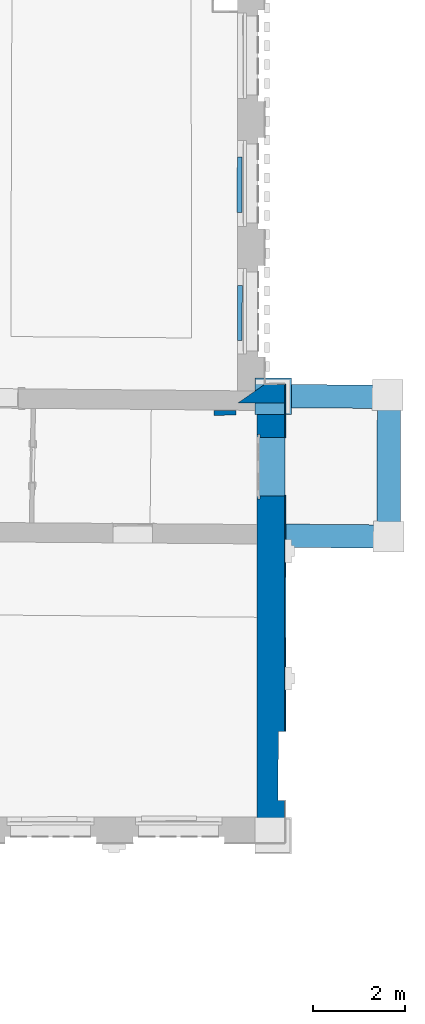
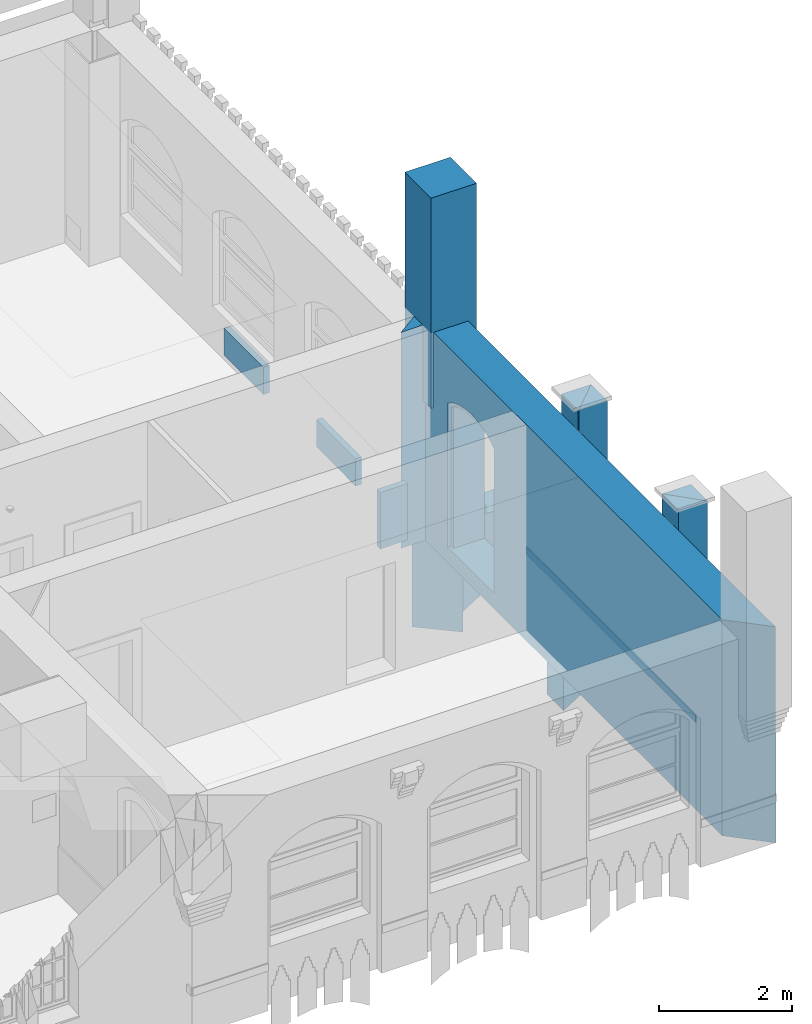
# One storey, part 36 of 90: 11 walls, 8 openings.
"""IFC2X3 building model written with IfcOpenShell, lengths in metres."""

from ifc_helpers import new_model, entity, si_unit, converted_unit, derived_unit, money_unit, direction, frame, origin_with_axes, origin_2d_with_axis, place, context, subcontext, project, spatial, polyline, rectangle, outline, extrude, faceted_brep, material, layer, layer_set, layer_usage, type_object, element, save


model = new_model("IFC2X3")

# Units and contexts
model_context = context("Model", 3, precision=1e-05, world=origin_with_axes(), true_north=direction((0.0, 1.0)))
body_context = subcontext(model_context, "Body", "Model", "MODEL_VIEW")
ifc_project = project(units=[si_unit("LENGTHUNIT", "METRE"), si_unit("AREAUNIT", "SQUARE_METRE"), si_unit("VOLUMEUNIT", "CUBIC_METRE"), converted_unit("PLANEANGLEUNIT", "DEGREE", entity("IfcPlaneAngleMeasure", 0.0174532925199), si_unit("PLANEANGLEUNIT", "RADIAN"), dimensions=[0, 0, 0, 0, 0, 0, 0]), money_unit("EUR"), converted_unit("TIMEUNIT", "Year", entity("IfcTimeMeasure", 31556926.0), si_unit("TIMEUNIT", "SECOND"), dimensions=[0, 0, 1, 0, 0, 0, 0]), si_unit("MASSUNIT", "GRAM", prefix="KILO"), si_unit("THERMODYNAMICTEMPERATUREUNIT", "DEGREE_CELSIUS"), si_unit("LUMINOUSINTENSITYUNIT", "LUMEN"), si_unit("ENERGYUNIT", "JOULE", prefix="MEGA"), derived_unit("THERMALCONDUCTANCEUNIT", [(si_unit("POWERUNIT", "WATT"), 1), (si_unit("LENGTHUNIT", "METRE"), -1), (si_unit("THERMODYNAMICTEMPERATUREUNIT", "KELVIN"), -1)]), derived_unit("SPECIFICHEATCAPACITYUNIT", [(si_unit("ENERGYUNIT", "JOULE"), 1), (si_unit("MASSUNIT", "GRAM", prefix="KILO"), -1), (si_unit("THERMODYNAMICTEMPERATUREUNIT", "KELVIN"), -1)]), derived_unit("MASSDENSITYUNIT", [(si_unit("MASSUNIT", "GRAM", prefix="KILO"), 1), (si_unit("VOLUMEUNIT", "CUBIC_METRE"), -1)])], contexts=[model_context])

# Site, building, storey
site_placement = place(None, origin_with_axes())
site = spatial("IfcSite", under=ifc_project, at=site_placement, Name="Gelände", CompositionType="ELEMENT")
building_placement = place(site_placement, origin_with_axes())
building = spatial("IfcBuilding", under=site, at=building_placement, Name="Gebäude", CompositionType="ELEMENT")
storey_placement = place(building_placement, frame((0.0, 0.0, 3.7), z_axis=(0.0, 0.0, 1.0), x_axis=(1.0, 0.0, 0.0)))
storey = spatial("IfcBuildingStorey", under=building, at=storey_placement, Name="1.OBERGESCHOSS", CompositionType="ELEMENT", Elevation=3.7)

# Wall
ifc_material_1 = material(Name="05_ALLGEMEIN - TRAGENDE BAUTEILE")
ifc_layer_1 = layer(ifc_material_1, 0.4, ventilated="UNKNOWN")
ifc_layer_set_1 = layer_set([ifc_layer_1], Name="05_ALLGEMEIN - TRAGENDE BAUTEILE 0.4")
ifc_layer_usage_1 = layer_usage(ifc_layer_set_1, "AXIS2", "NEGATIVE", 0.4)
wall_type_1 = type_object("IfcWallType", Name="05_ALLGEMEIN - TRAGENDE BAUTEILE 400", PredefinedType="ELEMENTEDWALL")
wall_1_placement = place(storey_placement, frame((32.1207494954, 19.80428634, -0.1), z_axis=(0.0, 0.0, 1.0), x_axis=(-0.999985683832, -0.00535089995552, 0.0)))
element("IfcWallStandardCase", 1, at=wall_1_placement, inside=storey, type_object=wall_type_1, material=ifc_layer_usage_1, Name="Wand-038", ObjectType="ELEMENTEDWALL", context=body_context, shape_type="SweptSolid", body=[
    extrude(outline(polyline([(0.0, 0.0), (0.443656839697, 0.0), (1.02566973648, 0.4), (0.0, 0.4), (0.0, 0.0)])), origin_with_axes(), (0.0, 0.0, 1.0), 3.97),
])

# Wall, openings
ifc_layer_2 = layer(ifc_material_1, 0.6, ventilated="UNKNOWN")
ifc_layer_set_2 = layer_set([ifc_layer_2], Name="05_ALLGEMEIN - TRAGENDE BAUTEILE 0.6")
ifc_layer_usage_2 = layer_usage(ifc_layer_set_2, "AXIS2", "NEGATIVE", 0.6)
wall_type_2 = type_object("IfcWallType", Name="05_ALLGEMEIN - TRAGENDE BAUTEILE 600", PredefinedType="ELEMENTEDWALL")
wall_2_placement = place(storey_placement, frame((32.1131897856, 9.89165640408, -0.1), z_axis=(0.0, 0.0, 1.0), x_axis=(0.000762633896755, 0.999999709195, 0.0)))
wall_2 = element("IfcWallStandardCase", 2, at=wall_2_placement, inside=storey, type_object=wall_type_2, material=ifc_layer_usage_2, Name="Wand-041", ObjectType="ELEMENTEDWALL", context=body_context, shape_type="SweptSolid", body=[
    extrude(outline(polyline([(0.0, 0.0), (9.40825890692, 0.0), (9.91634916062, 0.6), (0.559381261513, 0.6), (0.0, 0.0)])), origin_with_axes(), (0.0, 0.0, 1.0), 3.97),
])
opening_1_placement = place(wall_2_placement, frame((1.663324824, 0.0, -2.94716333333), z_axis=(0.0, 0.0, 1.0), x_axis=(1.0, 0.0, 0.0)))
element("IfcOpeningElement", 3, at=opening_1_placement, cuts=wall_2, Name="Fenster-015", ObjectType="Recess", context=body_context, shape_type="SweptSolid", body=[
    extrude(outline(polyline([(-0.745747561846, 0.0), (-0.745747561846, -5.8639999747), (-0.606806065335, -5.98650496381), (-0.448114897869, -6.08205242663), (-0.274838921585, -6.14753255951), (-0.092617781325, -6.18081422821), (0.0926177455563, -6.18081422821), (0.274838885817, -6.14753255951), (0.4481148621, -6.08205242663), (0.606806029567, -5.98650496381), (0.745747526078, -5.8639999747), (0.745748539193, -5.86390004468), (0.745747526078, 0.0), (-0.745747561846, 0.0)])), frame((0.0, 0.137560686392, 0.0), z_axis=(0.0, 1.0, 0.0), x_axis=(1.0, 0.0, 0.0)), (0.0, 0.0, -1.0), 0.737560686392),
])
opening_2_placement = place(wall_2_placement, frame((8.13197743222, 0.0, 0.283067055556), z_axis=(0.0, 0.0, 1.0), x_axis=(1.0, 0.0, 0.0)))
element("IfcOpeningElement", 4, at=opening_2_placement, cuts=wall_2, Name="Tür-022", context=body_context, shape_type="SweptSolid", body=[
    extrude(outline(polyline([(-0.629899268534, 0.0), (-0.629899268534, -2.61346867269), (-0.534591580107, -2.67104602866), (-0.434068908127, -2.71894070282), (-0.329311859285, -2.75668547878), (-0.221342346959, -2.78391215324), (-0.111213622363, -2.80035512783), (0.0, -2.805854), (0.111213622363, -2.80035512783), (0.221342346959, -2.78391215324), (0.329311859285, -2.75668547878), (0.434068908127, -2.71894070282), (0.534591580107, -2.67104602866), (0.629899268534, -2.61346867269), (0.629899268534, 0.0), (-0.629899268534, 0.0)])), frame((0.0, 0.54, 0.0), z_axis=(0.0, -1.0, 0.0), x_axis=(-1.0, 0.0, 0.0)), (0.0, 0.0, 1.0), 1.14),
    extrude(outline(polyline([(0.699899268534, 0.0), (0.699899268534, 2.65), (0.595209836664, 2.71743797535), (0.484082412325, 2.773638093), (0.367718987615, 2.81799247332), (0.247378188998, 2.85002136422), (0.12436166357, 2.86937833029), (0.0, 2.875854), (-0.12436166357, 2.86937833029), (-0.247378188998, 2.85002136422), (-0.367718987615, 2.81799247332), (-0.484082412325, 2.773638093), (-0.595209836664, 2.71743797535), (-0.699899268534, 2.65), (-0.699899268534, 0.0), (0.699899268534, 0.0)])), frame((0.0, 0.58, 0.0), z_axis=(0.0, 1.0, 0.0), x_axis=(-1.0, 0.0, 0.0)), (0.0, 0.0, -1.0), 0.04),
    extrude(outline(polyline([(0.699899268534, 0.0), (0.699899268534, 2.65), (0.595209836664, 2.71743797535), (0.484082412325, 2.773638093), (0.367718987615, 2.81799247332), (0.247378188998, 2.85002136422), (0.12436166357, 2.86937833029), (0.0, 2.875854), (-0.12436166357, 2.86937833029), (-0.247378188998, 2.85002136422), (-0.367718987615, 2.81799247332), (-0.484082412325, 2.773638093), (-0.595209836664, 2.71743797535), (-0.699899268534, 2.65), (-0.699899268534, 0.0), (0.699899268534, 0.0)])), frame((0.0, 0.58, 0.0), z_axis=(0.0, 1.0, 0.0), x_axis=(-1.0, 0.0, 0.0)), (0.0, 0.0, 1.0), 0.62),
])

# Walls
ifc_material_2 = material(Name="01_ALLGEMEIN - BAUTEIL")
ifc_layer_3 = layer(ifc_material_2, 0.105, ventilated="UNKNOWN")
ifc_layer_set_3 = layer_set([ifc_layer_3], Name="01_ALLGEMEIN - BAUTEIL 0.105")
ifc_layer_usage_3 = layer_usage(ifc_layer_set_3, "AXIS2", "NEGATIVE", 0.105)
wall_type_3 = type_object("IfcWallType", Name="01_ALLGEMEIN - BAUTEIL 105", PredefinedType="ELEMENTEDWALL")
wall_3_placement = place(storey_placement, frame((30.5892118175, 19.1375253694, 0.225519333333), z_axis=(0.0, 0.0, 1.0), x_axis=(0.999992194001, 0.00395119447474, 0.0)))
element("IfcWallStandardCase", 5, at=wall_3_placement, inside=storey, type_object=wall_type_3, material=ifc_layer_usage_3, Name="Wand-035", ObjectType="ELEMENTEDWALL", context=body_context, shape_type="SweptSolid", body=[
    extrude(outline(polyline([(0.0, 0.0), (0.473791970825, 0.0), (0.473791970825, 0.105), (0.0, 0.105), (0.0, 0.0)])), origin_with_axes(), (0.0, 0.0, 1.0), 1.03720722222),
])
ifc_layer_usage_4 = layer_usage(ifc_layer_set_3, "AXIS2", "NEGATIVE", 0.105)
wall_4_placement = place(storey_placement, frame((31.0912078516, 24.7198136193, 0.225519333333), z_axis=(0.0, 0.0, 1.0), x_axis=(-0.00357142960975, -0.999993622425, 0.0)))
element("IfcWallStandardCase", 6, at=wall_4_placement, inside=storey, type_object=wall_type_3, material=ifc_layer_usage_4, Name="Wand-036", ObjectType="ELEMENTEDWALL", context=body_context, shape_type="SweptSolid", body=[
    extrude(outline(polyline([(0.0, 0.0), (1.19259514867, 0.0), (1.19259514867, 0.105), (0.0, 0.105), (0.0, 0.0)])), origin_with_axes(), (0.0, 0.0, 1.0), 0.501014),
])
ifc_layer_usage_5 = layer_usage(ifc_layer_set_3, "AXIS2", "NEGATIVE", 0.105)
wall_5_placement = place(storey_placement, frame((31.0948449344, 21.9449113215, 0.225519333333), z_axis=(0.0, 0.0, 1.0), x_axis=(-0.00357142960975, -0.999993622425, 0.0)))
element("IfcWallStandardCase", 7, at=wall_5_placement, inside=storey, type_object=wall_type_3, material=ifc_layer_usage_5, Name="Wand-036", ObjectType="ELEMENTEDWALL", context=body_context, shape_type="SweptSolid", body=[
    extrude(outline(polyline([(0.0, 0.0), (1.19259514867, 0.0), (1.19259514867, 0.105), (0.0, 0.105), (0.0, 0.0)])), origin_with_axes(), (0.0, 0.0, 1.0), 0.501014),
])
ifc_layer_4 = layer(ifc_material_1, 0.79, ventilated="UNKNOWN")
ifc_layer_set_4 = layer_set([ifc_layer_4], Name="05_ALLGEMEIN - TRAGENDE BAUTEILE 0.79")
ifc_layer_usage_6 = layer_usage(ifc_layer_set_4, "AXIS2", "POSITIVE", -0.79)
wall_type_4 = type_object("IfcWallType", Name="05_ALLGEMEIN - TRAGENDE BAUTEILE 790", PredefinedType="ELEMENTEDWALL")
wall_6_placement = place(storey_placement, frame((32.2668241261, 19.9421758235, 2.49092121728), z_axis=(0.0, 0.0, 1.0), x_axis=(0.0, -1.0, 0.0)))
element("IfcWallStandardCase", 8, at=wall_6_placement, inside=storey, type_object=wall_type_4, material=ifc_layer_usage_6, Name="Wand-029", ObjectType="ELEMENTEDWALL", context=body_context, shape_type="SweptSolid", body=[
    extrude(outline(polyline([(0.0, -0.79), (0.79, -0.79), (0.79, 0.0), (0.0, 0.0), (0.0, -0.79)])), origin_with_axes(), (0.0, 0.0, 1.0), 3.85942458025),
])

# Wall, openings
ifc_layer_5 = layer(ifc_material_1, 0.504364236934, ventilated="UNKNOWN")
ifc_layer_set_5 = layer_set([ifc_layer_5], Name="05_ALLGEMEIN - TRAGENDE BAUTEILE 0.504364")
ifc_layer_usage_7 = layer_usage(ifc_layer_set_5, "AXIS2", "NEGATIVE", 0.504364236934)
wall_type_5 = type_object("IfcWallType", Name="05_ALLGEMEIN - TRAGENDE BAUTEILE 504", PredefinedType="ELEMENTEDWALL")
wall_7_placement = place(storey_placement, frame((32.1197835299, 16.2816083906, -1.93791733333), z_axis=(0.0, 0.0, 1.0), x_axis=(0.999963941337, -0.00849211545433, 0.0)))
wall_7 = element("IfcWallStandardCase", 9, at=wall_7_placement, inside=storey, type_object=wall_type_5, material=ifc_layer_usage_7, Name="Wand-043", ObjectType="ELEMENTEDWALL", context=body_context, shape_type="SweptSolid", body=[
    extrude(outline(polyline([(0.0, 0.0), (2.495, 0.0), (1.98770841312, 0.504364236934), (0.0, 0.504364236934), (0.0, 0.0)])), origin_with_axes(), (0.0, 0.0, 1.0), 3.382042),
])
opening_3_placement = place(wall_7_placement, frame((0.992586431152, 0.0, 0.0), z_axis=(0.0, 0.0, 1.0), x_axis=(1.0, 0.0, 0.0)))
element("IfcOpeningElement", 10, at=opening_3_placement, cuts=wall_7, Name="Tür-023", context=body_context, shape_type="Brep", body=[
    faceted_brep([(0.997137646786, 0.502360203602, 0.382164), (0.997137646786, 0.115681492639, 0.382164), (0.997137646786, 0.115681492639, 0.0), (0.997137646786, 0.502360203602, 0.0), (0.694998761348, 0.802755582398, 0.576243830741), (0.694998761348, 0.115681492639, 0.576243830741), (0.356763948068, 0.115681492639, 0.696875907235), (0.0, 0.115681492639, 0.737795), (-0.356763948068, 0.115681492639, 0.696875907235), (-0.694998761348, 0.115681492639, 0.576243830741), (-0.997137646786, 0.115681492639, 0.382164), (-0.997137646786, 0.115681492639, 0.0), (-0.997137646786, 1.00872847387, 0.0), (0.487830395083, 1.00872847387, 0.0), (0.487830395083, 1.00872847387, 0.650130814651), (0.356763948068, 1.00872847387, 0.696875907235), (0.0, 1.00872847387, 0.737795), (-0.356763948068, 1.00872847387, 0.696875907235), (-0.694998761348, 1.00872847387, 0.576243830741), (-0.997137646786, 1.00872847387, 0.382164)], [[[0, 1, 2, 3]], [[4, 5, 1, 0]], [[2, 1, 5, 6, 7, 8, 9, 10, 11]], [[12, 13, 3, 2, 11]], [[14, 4, 0, 3, 13]], [[14, 15, 6, 5, 4]], [[15, 16, 7, 6]], [[16, 17, 8, 7]], [[17, 18, 9, 8]], [[18, 19, 10, 9]], [[19, 12, 11, 10]], [[13, 12, 19, 18, 17, 16, 15, 14]]]),
    faceted_brep([(-0.997137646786, -0.504364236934, 0.0), (-0.997137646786, -0.504364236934, 0.382164), (-0.997137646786, 0.115681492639, 0.382164), (-0.997137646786, 0.115681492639, 0.0), (0.997137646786, -0.504364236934, 0.0), (0.997137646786, -0.504364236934, 0.382164), (0.694998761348, -0.504364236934, 0.576243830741), (0.356763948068, -0.504364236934, 0.696875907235), (0.0, -0.504364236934, 0.737795), (-0.356763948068, -0.504364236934, 0.696875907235), (-0.694998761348, -0.504364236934, 0.576243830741), (-0.694998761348, 0.115681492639, 0.576243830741), (-0.356763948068, 0.115681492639, 0.696875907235), (0.0, 0.115681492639, 0.737795), (0.356763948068, 0.115681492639, 0.696875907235), (0.694998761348, 0.115681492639, 0.576243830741), (0.997137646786, 0.115681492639, 0.382164), (0.997137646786, 0.115681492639, 0.0)], [[[0, 1, 2, 3]], [[0, 4, 5, 6, 7, 8, 9, 10, 1]], [[1, 10, 11, 2]], [[3, 2, 11, 12, 13, 14, 15, 16, 17]], [[4, 0, 3, 17]], [[5, 4, 17, 16]], [[6, 5, 16, 15]], [[7, 6, 15, 14]], [[8, 7, 14, 13]], [[9, 8, 13, 12]], [[10, 9, 12, 11]]]),
])
opening_4_placement = place(wall_7_placement, frame((0.992586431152, 0.0, 2.03933638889), z_axis=(0.0, 0.0, 1.0), x_axis=(1.0, 0.0, 0.0)))
element("IfcOpeningElement", 11, at=opening_4_placement, cuts=wall_7, Name="Tür-023", context=body_context, shape_type="Brep", body=[
    faceted_brep([(0.997137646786, 0.502360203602, 1.34270561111), (0.997137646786, 0.115681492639, 1.34270561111), (0.997137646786, 0.115681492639, 0.0), (0.997137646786, 0.502360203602, 0.0), (0.487830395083, 1.00872847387, 1.34270561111), (-0.997137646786, 1.00872847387, 1.34270561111), (-0.997137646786, 0.115681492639, 1.34270561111), (-0.997137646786, 0.115681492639, 0.0), (-0.997137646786, 1.00872847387, 0.0), (0.487830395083, 1.00872847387, 0.0)], [[[0, 1, 2, 3]], [[4, 5, 6, 1, 0]], [[2, 1, 6, 7]], [[8, 9, 3, 2, 7]], [[4, 0, 3, 9]], [[9, 8, 5, 4]], [[5, 8, 7, 6]]]),
    faceted_brep([(0.997137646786, -0.504364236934, 1.34270561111), (0.997137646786, -0.504364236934, 0.0), (0.997137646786, 0.115681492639, 0.0), (0.997137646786, 0.115681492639, 1.34270561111), (-0.997137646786, -0.504364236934, 1.34270561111), (-0.997137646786, -0.504364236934, 0.0), (-0.997137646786, 0.115681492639, 0.0), (-0.997137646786, 0.115681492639, 1.34270561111)], [[[0, 1, 2, 3]], [[0, 4, 5, 1]], [[1, 5, 6, 2]], [[3, 2, 6, 7]], [[4, 0, 3, 7]], [[5, 4, 7, 6]]]),
])

ifc_layer_usage_8 = layer_usage(ifc_layer_set_5, "AXIS2", "NEGATIVE", 0.504364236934)
wall_8_placement = place(storey_placement, frame((34.6242325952, 19.7868706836, -1.93791733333), z_axis=(0.0, 0.0, 1.0), x_axis=(-0.999975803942, 0.00695640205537, 0.0)))
wall_8 = element("IfcWallStandardCase", 12, at=wall_8_placement, inside=storey, type_object=wall_type_5, material=ifc_layer_usage_8, Name="Wand-043", ObjectType="ELEMENTEDWALL", context=body_context, shape_type="SweptSolid", body=[
    extrude(outline(polyline([(0.0, 0.0), (3.10355518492, 0.0), (2.50041969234, 0.504364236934), (0.502224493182, 0.504364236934), (0.0, 0.0)])), origin_with_axes(), (0.0, 0.0, 1.0), 3.382042),
])
opening_5_placement = place(wall_8_placement, frame((1.50640602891, 0.0, 0.0), z_axis=(0.0, 0.0, 1.0), x_axis=(1.0, 0.0, 0.0)))
element("IfcOpeningElement", 13, at=opening_5_placement, cuts=wall_8, Name="Tür-023", context=body_context, shape_type="SweptSolid", body=[
    extrude(outline(polyline([(0.997137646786, 0.0), (0.997137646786, 0.382164), (0.694998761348, 0.576243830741), (0.356763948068, 0.696875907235), (0.0, 0.737795), (-0.356763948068, 0.696875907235), (-0.694998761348, 0.576243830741), (-0.997137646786, 0.382164), (-0.997137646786, 0.0), (0.997137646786, 0.0)])), frame((0.0, 0.115681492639, 0.0), z_axis=(0.0, -1.0, 0.0), x_axis=(1.0, 0.0, 0.0)), (0.0, 0.0, -1.0), 0.893046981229),
    extrude(outline(polyline([(-0.997137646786, 0.0), (-0.997137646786, -0.382164), (-0.694998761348, -0.576243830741), (-0.356763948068, -0.696875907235), (0.0, -0.737795), (0.356763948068, -0.696875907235), (0.694998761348, -0.576243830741), (0.997137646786, -0.382164), (0.997137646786, 0.0), (-0.997137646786, 0.0)])), frame((0.0, 0.115681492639, 0.0), z_axis=(0.0, 1.0, 0.0), x_axis=(1.0, 0.0, 0.0)), (0.0, 0.0, -1.0), 0.620045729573),
])
opening_6_placement = place(wall_8_placement, frame((1.50640602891, 0.0, 2.03933638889), z_axis=(0.0, 0.0, 1.0), x_axis=(1.0, 0.0, 0.0)))
element("IfcOpeningElement", 14, at=opening_6_placement, cuts=wall_8, Name="Tür-023", context=body_context, shape_type="SweptSolid", body=[
    extrude(rectangle(XDim=1.99427529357, YDim=1.34270561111, at=origin_2d_with_axis()), frame((0.0, 0.115681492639, 0.671352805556), z_axis=(0.0, -1.0, 0.0), x_axis=(1.0, 0.0, 0.0)), (0.0, 0.0, -1.0), 0.893046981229),
    extrude(rectangle(XDim=1.99427529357, YDim=1.34270561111, at=origin_2d_with_axis()), frame((0.0, 0.115681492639, 0.671352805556), z_axis=(0.0, 1.0, 0.0), x_axis=(1.0, 0.0, 0.0)), (0.0, 0.0, -1.0), 0.620045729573),
])

ifc_layer_usage_9 = layer_usage(ifc_layer_set_5, "AXIS2", "NEGATIVE", 0.504364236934)
wall_9_placement = place(storey_placement, frame((34.6146935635, 16.2604205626, -1.93791733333), z_axis=(0.0, 0.0, 1.0), x_axis=(0.00270498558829, 0.99999634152, 0.0)))
wall_9 = element("IfcWallStandardCase", 15, at=wall_9_placement, inside=storey, type_object=wall_type_5, material=ifc_layer_usage_9, Name="Wand-043", ObjectType="ELEMENTEDWALL", context=body_context, shape_type="SweptSolid", body=[
    extrude(outline(polyline([(0.0, 0.0), (3.52646302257, 0.0), (3.02423852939, 0.504364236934), (0.507291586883, 0.504364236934), (0.0, 0.0)])), origin_with_axes(), (0.0, 0.0, 1.0), 3.382042),
])
opening_7_placement = place(wall_9_placement, frame((1.7685578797, 0.0, 0.0), z_axis=(0.0, 0.0, 1.0), x_axis=(1.0, 0.0, 0.0)))
element("IfcOpeningElement", 16, at=opening_7_placement, cuts=wall_9, Name="Tür-024", context=body_context, shape_type="Brep", body=[
    faceted_brep([(1.2640467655, 1.00872847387, 0.0), (1.2640467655, 1.00872847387, 0.382164), (1.2640467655, 0.115681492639, 0.382164), (1.2640467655, 0.115681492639, 0.0), (-0.753974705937, 1.00872847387, 0.0), (-0.753974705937, 1.00872847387, 0.604695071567), (-0.656560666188, 1.00872847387, 0.647194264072), (0.0, 1.00872847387, 0.737795), (0.656560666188, 1.00872847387, 0.647194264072), (0.656560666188, 0.115681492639, 0.647194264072), (0.0, 0.115681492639, 0.737795), (-0.656560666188, 0.115681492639, 0.647194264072), (-1.2640467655, 0.115681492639, 0.382164), (-1.2640467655, 0.115681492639, 0.0), (-1.2640467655, 0.501599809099, 0.0), (-1.2640467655, 0.501599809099, 0.382164)], [[[0, 1, 2, 3]], [[0, 4, 5, 6, 7, 8, 1]], [[1, 8, 9, 2]], [[3, 2, 9, 10, 11, 12, 13]], [[4, 0, 3, 13, 14]], [[5, 4, 14, 15]], [[6, 5, 15, 12, 11]], [[7, 6, 11, 10]], [[8, 7, 10, 9]], [[14, 13, 12, 15]]]),
    faceted_brep([(-1.2640467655, -0.504364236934, 0.0), (-1.2640467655, -0.504364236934, 0.382164), (-1.2640467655, 0.115681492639, 0.382164), (-1.2640467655, 0.115681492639, 0.0), (1.2640467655, -0.504364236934, 0.0), (1.2640467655, -0.504364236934, 0.382164), (0.656560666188, -0.504364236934, 0.647194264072), (0.0, -0.504364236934, 0.737795), (-0.656560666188, -0.504364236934, 0.647194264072), (-0.656560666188, 0.115681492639, 0.647194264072), (0.0, 0.115681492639, 0.737795), (0.656560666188, 0.115681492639, 0.647194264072), (1.2640467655, 0.115681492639, 0.382164), (1.2640467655, 0.115681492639, 0.0)], [[[0, 1, 2, 3]], [[0, 4, 5, 6, 7, 8, 1]], [[1, 8, 9, 2]], [[3, 2, 9, 10, 11, 12, 13]], [[4, 0, 3, 13]], [[5, 4, 13, 12]], [[6, 5, 12, 11]], [[7, 6, 11, 10]], [[8, 7, 10, 9]]]),
])
opening_8_placement = place(wall_9_placement, frame((1.7685578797, 0.0, 2.03933638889), z_axis=(0.0, 0.0, 1.0), x_axis=(1.0, 0.0, 0.0)))
element("IfcOpeningElement", 17, at=opening_8_placement, cuts=wall_9, Name="Tür-024", context=body_context, shape_type="Brep", body=[
    faceted_brep([(1.2640467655, 1.00872847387, 0.0), (1.2640467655, 1.00872847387, 1.34270561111), (1.2640467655, 0.115681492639, 1.34270561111), (1.2640467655, 0.115681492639, 0.0), (-0.753974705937, 1.00872847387, 0.0), (-0.753974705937, 1.00872847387, 1.34270561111), (-1.2640467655, 0.501599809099, 1.34270561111), (-1.2640467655, 0.115681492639, 1.34270561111), (-1.2640467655, 0.115681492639, 0.0), (-1.2640467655, 0.501599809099, 0.0)], [[[0, 1, 2, 3]], [[0, 4, 5, 1]], [[1, 5, 6, 7, 2]], [[3, 2, 7, 8]], [[4, 0, 3, 8, 9]], [[5, 4, 9, 6]], [[9, 8, 7, 6]]]),
    faceted_brep([(1.2640467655, -0.504364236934, 1.34270561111), (1.2640467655, -0.504364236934, 0.0), (1.2640467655, 0.115681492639, 0.0), (1.2640467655, 0.115681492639, 1.34270561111), (-1.2640467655, -0.504364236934, 1.34270561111), (-1.2640467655, -0.504364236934, 0.0), (-1.2640467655, 0.115681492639, 0.0), (-1.2640467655, 0.115681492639, 1.34270561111)], [[[0, 1, 2, 3]], [[0, 4, 5, 1]], [[1, 5, 6, 2]], [[3, 2, 6, 7]], [[4, 0, 3, 7]], [[5, 4, 7, 6]]]),
])

# Walls
wall_type_6 = type_object("IfcWallType", Name="Fassade Sims 7 23 x 138", PredefinedType="ELEMENTEDWALL")
wall_10_placement = place(storey_placement, frame((32.1207494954, 19.80428634, 0.784829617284), z_axis=(0.0, 0.0, 1.0), x_axis=(-0.000762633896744, -0.999999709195, 0.0)))
element("IfcWall", 18, at=wall_10_placement, inside=storey, type_object=wall_type_6, material=ifc_material_2, Name="Wand-086", ObjectType="ELEMENTEDWALL", context=body_context, shape_type="SweptSolid", body=[
    extrude(outline(polyline([(0.0226167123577, 0.0), (0.0, 0.0), (0.0, -0.138037), (0.0226167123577, -0.138037), (0.0226167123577, 0.0)])), frame((0.0, 0.0, 0.0), z_axis=(1.0, 0.0, 0.0), x_axis=(0.0, 1.0, 0.0)), (0.0, 0.0, 1.0), 1.15075611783),
])
wall_11_placement = place(storey_placement, frame((32.1189228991, 17.4091715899, 0.784829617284), z_axis=(0.0, 0.0, 1.0), x_axis=(-0.000762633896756, -0.999999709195, 0.0)))
element("IfcWall", 19, at=wall_11_placement, inside=storey, type_object=wall_type_6, material=ifc_material_2, Name="Wand-087", ObjectType="ELEMENTEDWALL", context=body_context, shape_type="SweptSolid", body=[
    extrude(outline(polyline([(0.0226167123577, 0.0), (0.0, 0.0), (0.0, -0.138037), (0.0226167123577, -0.138037), (0.0226167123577, 0.0)])), frame((0.0, 0.0, 0.0), z_axis=(1.0, 0.0, 0.0), x_axis=(0.0, 1.0, 0.0)), (0.0, 0.0, 1.0), 5.10844498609),
])

save(model, "model.ifc")
